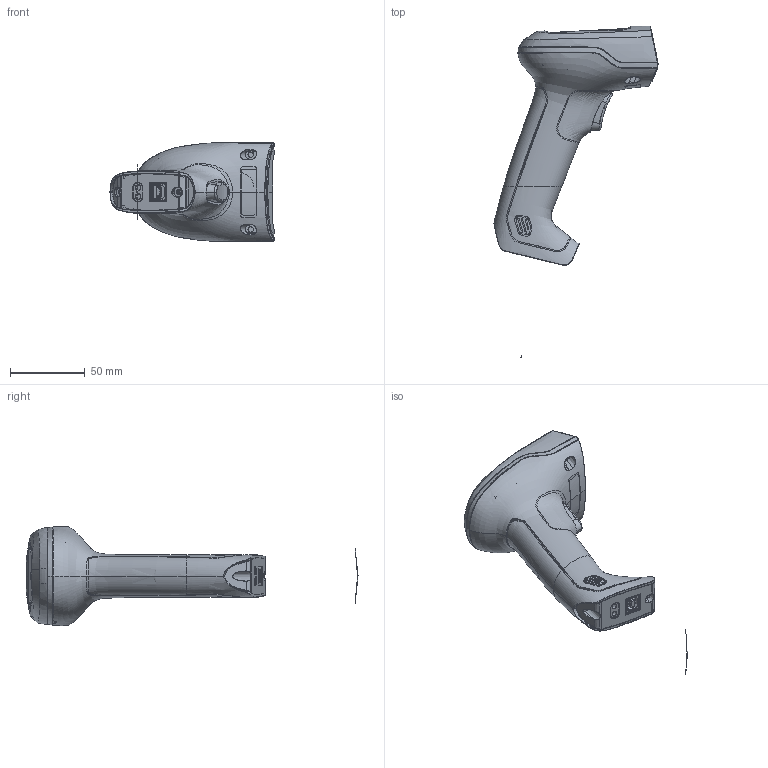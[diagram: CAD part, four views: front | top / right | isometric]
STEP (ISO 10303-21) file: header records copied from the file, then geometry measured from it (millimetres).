
FILE_DESCRIPTION((''),'2;1');
FILE_NAME('PRT0001','2023-09-04T22:42:32',('lizhoupeng'),(''),'CREO PARAMETRIC BY PTC INC, 2020044','CREO PARAMETRIC BY PTC INC, 2020044','');
FILE_SCHEMA(('CONFIG_CONTROL_DESIGN'));
Products named in the file (1): PRT0001
Bounding box: 109.73 x 222.02 x 219.64 mm (x, y, z)
Volume: 128330.9 mm3; surface area: 135139.9 mm2
Topology: 2 solids, 25 shells, 5193 faces, 15687 edges, 10564 vertices
Faces by surface type: plane 2494, bspline 1347, cylinder 721, extrusion 366, cone 215, torus 41, sphere 8, revolution 1
Entity records: 361651 total; most frequent: CARTESIAN_POINT 240057, ORIENTED_EDGE 30891, DIRECTION 16047, EDGE_CURVE 15648, VERTEX_POINT 10555, B_SPLINE_CURVE_WITH_KNOTS 8377, VECTOR 6904, LINE 6542
